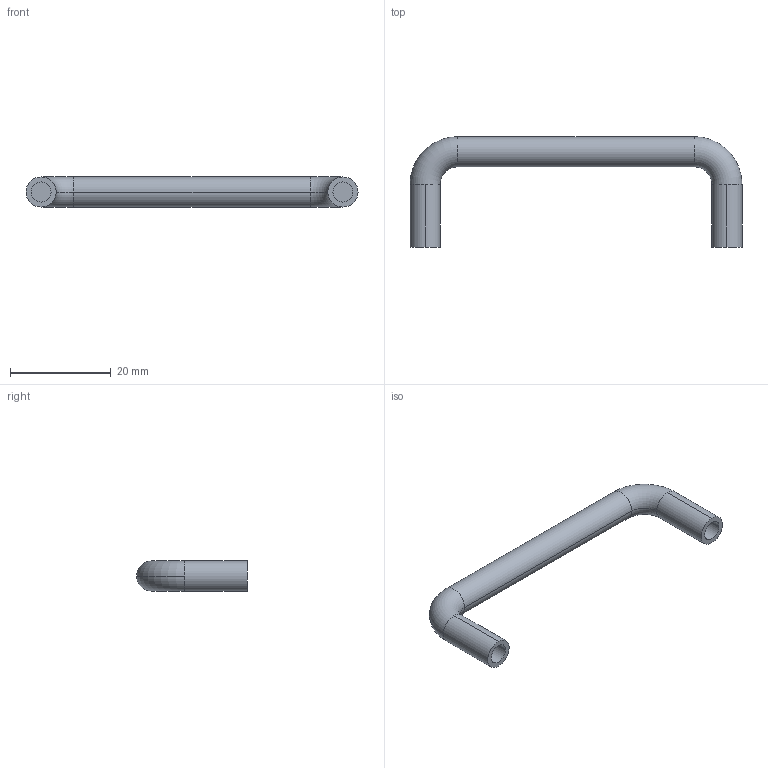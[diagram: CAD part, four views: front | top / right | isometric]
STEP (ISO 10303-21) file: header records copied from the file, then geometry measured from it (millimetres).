
FILE_DESCRIPTION (( 'STEP AP214' ), '1' );
FILE_NAME ('A84 KA-1251-3.STEP', '2012-02-22T01:57:10', ( '' ), ( '' ), 'SwSTEP 2.0', 'SolidWorks 2012', '' );
FILE_SCHEMA (( 'AUTOMOTIVE_DESIGN' ));
Length unit declared in the file: millimetre
Products named in the file (1): A84 KA-1251-3
Bounding box: 66 x 22 x 6 mm (x, y, z)
Volume: 2437.2 mm3; surface area: 1974.6 mm2
Topology: 1 solids, 1 shells, 18 faces, 38 edges, 24 vertices
Faces by surface type: cylinder 10, torus 4, plane 4
Entity records: 598 total; most frequent: DIRECTION 104, CARTESIAN_POINT 81, ORIENTED_EDGE 76, AXIS2_PLACEMENT_3D 47, EDGE_CURVE 38, CIRCLE 28, VERTEX_POINT 24, EDGE_LOOP 20
